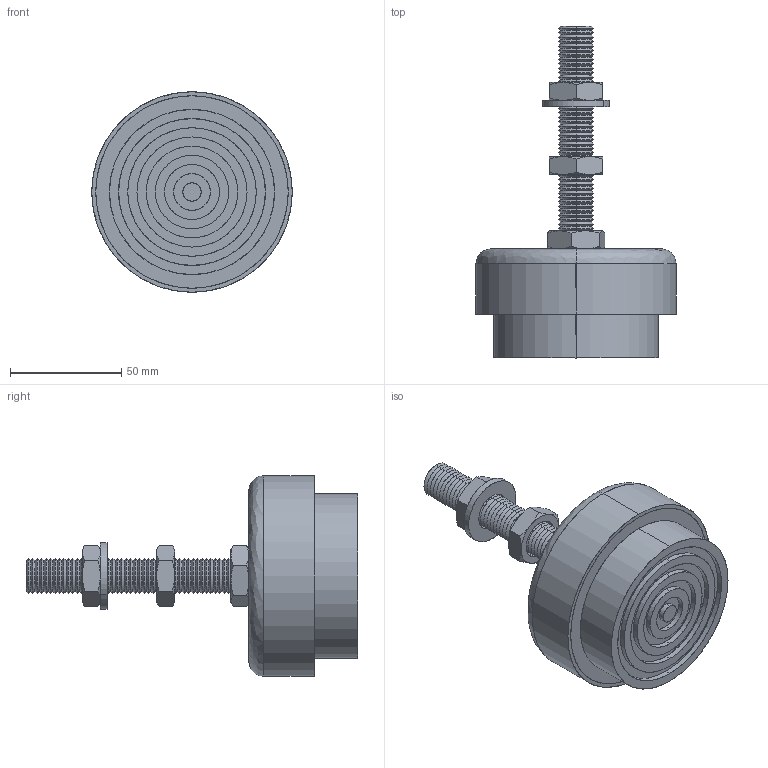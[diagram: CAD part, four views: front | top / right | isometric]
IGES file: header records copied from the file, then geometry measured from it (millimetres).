
Start section: SolidWorks IGES file using analytic representation for surfaces
Global section: file name: C:\Documents and Settings\IANO\Desktop\Temp File\Process pending\EXISTING\34940_v2\34940_v2_20170627_IGES\Default.igs; native system: SolidWorks 2009; preprocessor: SolidWorks 2009; author: IANO; date: 170626.132352; units: millimetre
Bounding box: 90 x 149 x 90 mm (x, y, z)
Surface area: 83355.8 mm2 (no closed solid volume)
Topology: 0 solids, 0 shells, 379 faces, 4672 edges, 4672 vertices
Faces by surface type: revolution 324, bspline 55
